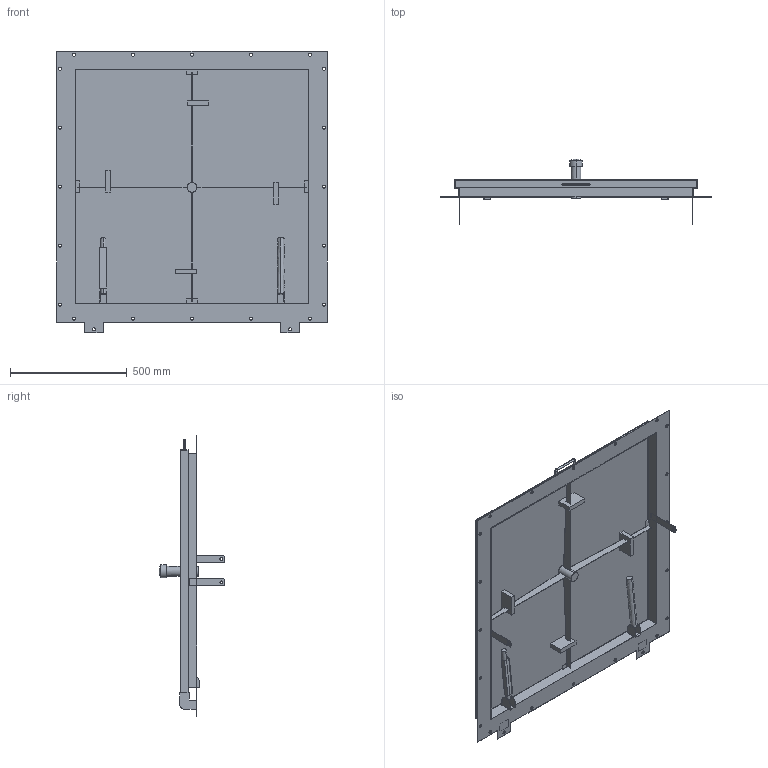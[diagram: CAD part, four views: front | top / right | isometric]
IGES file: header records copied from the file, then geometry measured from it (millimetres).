
Start section:  PTC IGES file: 52427781.igs
Global section: file name: 52427781.igs; native system: Creo Parametric by PTC Inc.; preprocessor: 2022162; author: wep; organization: Unknown; date: 20250805.104956; units: millimetre
Bounding box: 1160 x 282 x 1205 mm (x, y, z)
Surface area: 3880213.4 mm2 (no closed solid volume)
Topology: 0 solids, 0 shells, 837 faces, 4548 edges, 4542 vertices
Faces by surface type: bspline 484, extrusion 275, revolution 78
